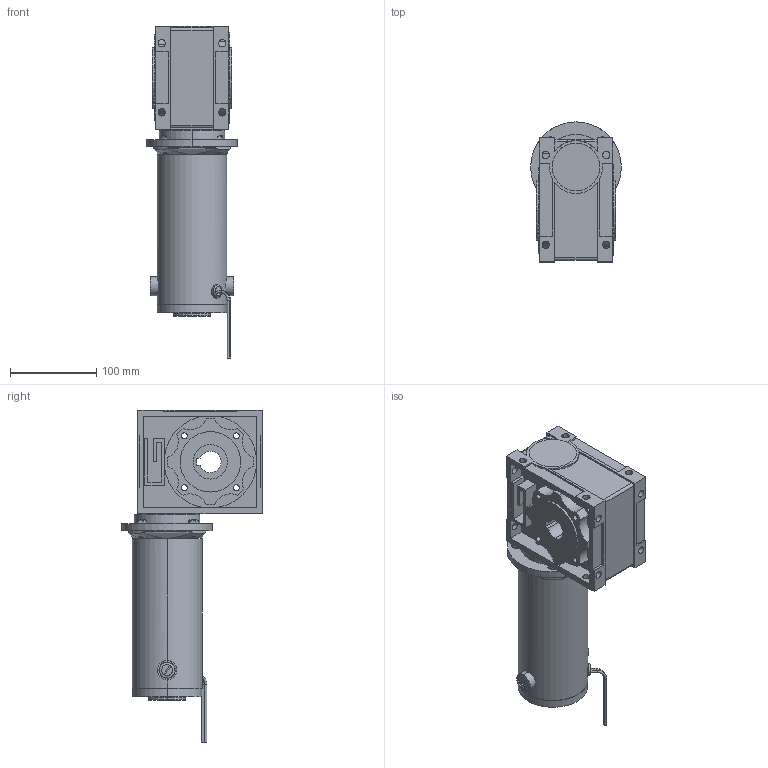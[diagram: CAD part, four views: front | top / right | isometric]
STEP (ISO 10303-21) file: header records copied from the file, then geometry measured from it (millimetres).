
FILE_DESCRIPTION (( 'STEP AP203' ), '1' );
FILE_NAME ('PM8018LV-RA5000T.STEP', '2008-06-30T18:05:05', ( 'eng-rjs' ), ( 'groschopp' ), 'SwSTEP 2.0', 'SolidWorks 2008', '' );
FILE_SCHEMA (( 'CONFIG_CONTROL_DESIGN' ));
Length unit declared in the file: inch
Products named in the file (1): PM8018LV-RA5000T
Bounding box: 105 x 162.5 x 384.52 mm (x, y, z)
Surface area: 224816.8 mm2 (no closed solid volume)
Topology: 0 solids, 34 shells, 480 faces, 1354 edges, 910 vertices
Faces by surface type: cylinder 251, plane 172, cone 27, torus 17, bspline 13
Entity records: 16833 total; most frequent: CARTESIAN_POINT 4107, DIRECTION 2782, ORIENTED_EDGE 2440, EDGE_CURVE 1354, AXIS2_PLACEMENT_3D 1077, VERTEX_POINT 910, VECTOR 628, LINE 628
